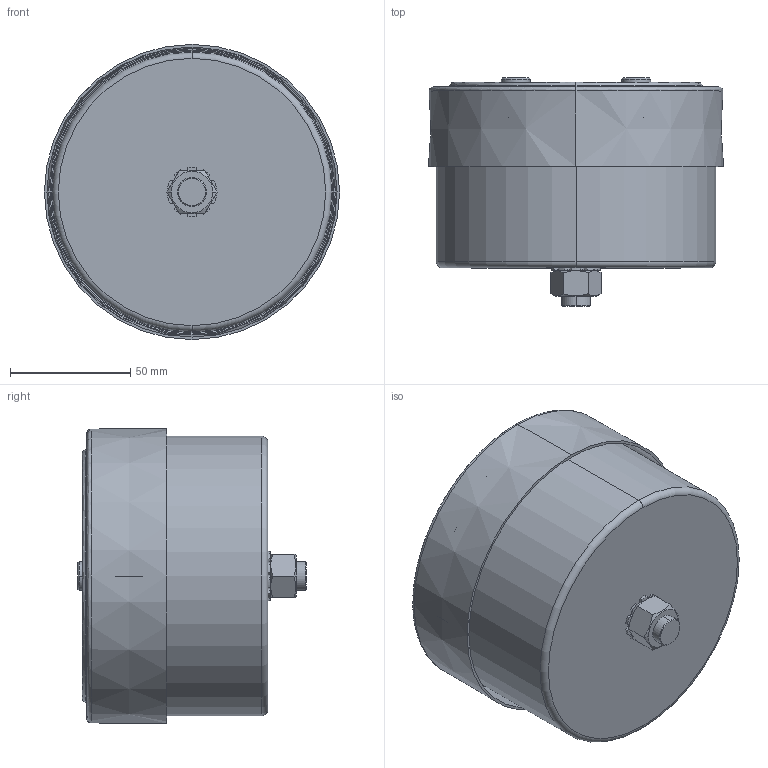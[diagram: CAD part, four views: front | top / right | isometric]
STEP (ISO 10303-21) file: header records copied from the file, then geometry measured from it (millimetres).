
FILE_DESCRIPTION (( 'STEP AP203' ), '1' );
FILE_NAME ('B25680Cx_116x77_79.STEP', '2021-09-13T08:26:07', ( '' ), ( '' ), 'SwSTEP 2.0', 'SolidWorks 2017', '' );
FILE_SCHEMA (( 'CONFIG_CONTROL_DESIGN' ));
Length unit declared in the file: millimetre
Products named in the file (1): B25680Cx_116x77_79
Bounding box: 122.58 x 95 x 122.58 mm (x, y, z)
Volume: 128759.3 mm3; surface area: 171273.1 mm2
Topology: 1 solids, 7 shells, 571 faces, 1422 edges, 899 vertices
Faces by surface type: plane 207, cylinder 166, bspline 83, cone 75, torus 40
Entity records: 20283 total; most frequent: CARTESIAN_POINT 6975, ORIENTED_EDGE 2818, DIRECTION 2748, EDGE_CURVE 1409, AXIS2_PLACEMENT_3D 1112, VERTEX_POINT 899, EDGE_LOOP 632, CIRCLE 623
